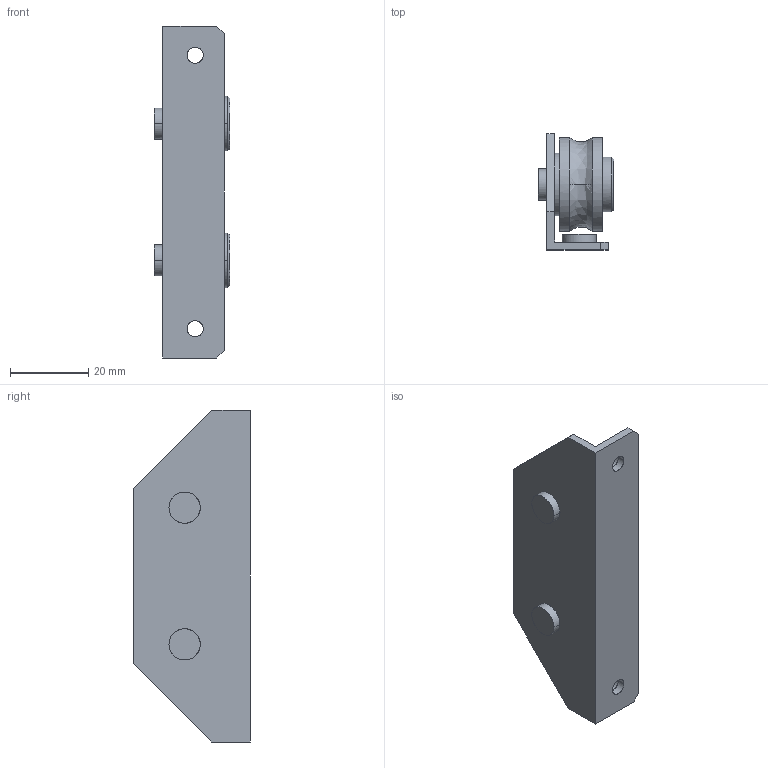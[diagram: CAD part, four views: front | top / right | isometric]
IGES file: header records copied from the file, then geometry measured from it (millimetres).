
Global section: file name: No Iges File Name specified; native system: AutoDesk Inventor R11.0; preprocessor: AutoDesk Inventor Iges Exporter R11.0; author: No Author specified; organization: No Organization specified; date: 20190426.192603; units: millimetre
Bounding box: 19.4 x 29.8 x 85 mm (x, y, z)
Surface area: 11384.6 mm2 (no closed solid volume)
Topology: 0 solids, 0 shells, 70 faces, 472 edges, 472 vertices
Faces by surface type: bspline 70
